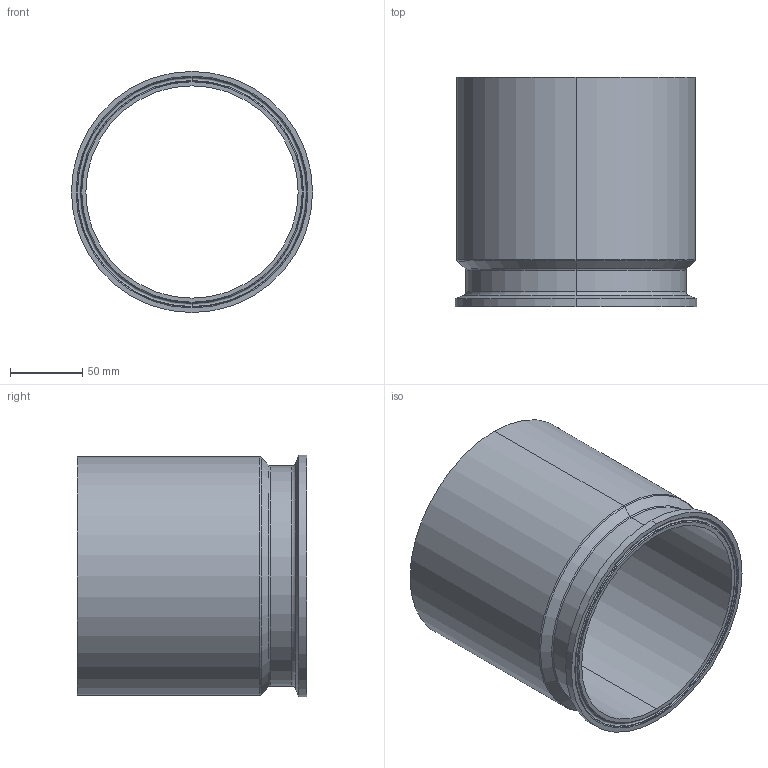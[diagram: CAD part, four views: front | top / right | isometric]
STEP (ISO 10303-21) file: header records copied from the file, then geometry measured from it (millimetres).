
FILE_DESCRIPTION (( 'STEP AP214' ), '1' );
FILE_NAME ('EG14WSL-C6L6.0 REV1.STEP', '2025-10-09T13:28:14', ( '' ), ( '' ), 'SwSTEP 2.0', 'SolidWorks 2023', '' );
FILE_SCHEMA (( 'AUTOMOTIVE_DESIGN' ));
Length unit declared in the file: inch
Products named in the file (1): EG14WSL-C6L6.0 REV1
Bounding box: 166.88 x 158.75 x 166.88 mm (x, y, z)
Volume: 641501.5 mm3; surface area: 168411 mm2
Topology: 1 solids, 1 shells, 31 faces, 62 edges, 34 vertices
Faces by surface type: torus 12, cylinder 8, cone 8, plane 3
Entity records: 837 total; most frequent: DIRECTION 172, CARTESIAN_POINT 128, ORIENTED_EDGE 124, AXIS2_PLACEMENT_3D 78, EDGE_CURVE 62, CIRCLE 46, VERTEX_POINT 34, EDGE_LOOP 34
